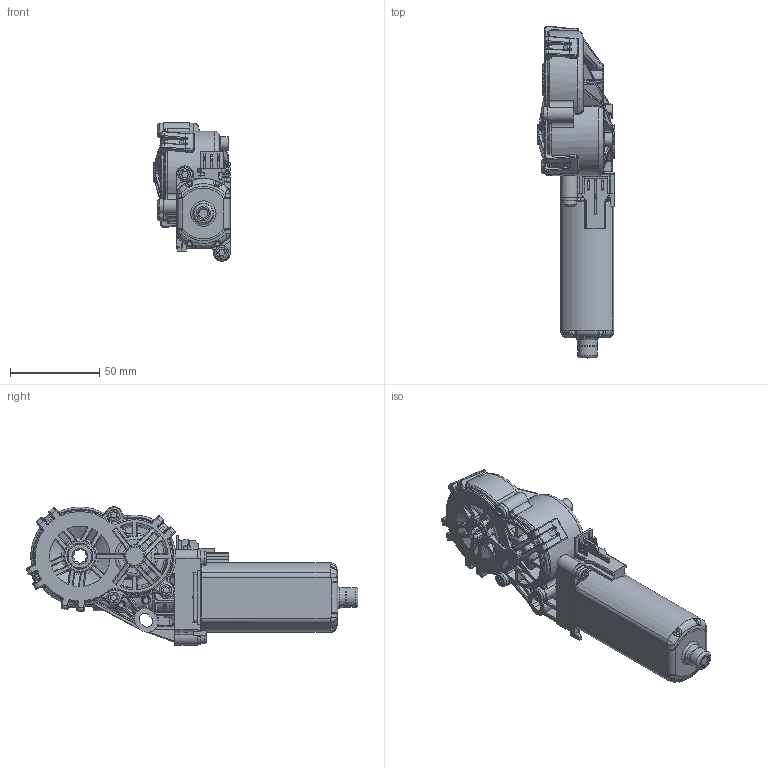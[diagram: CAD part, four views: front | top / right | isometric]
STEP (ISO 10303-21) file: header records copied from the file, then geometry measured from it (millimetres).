
FILE_DESCRIPTION(/* description */ (''),/* implementation_level */ '2;1');
FILE_NAME(/* name */ '0390203310.stp',/* time_stamp */ '2013-02-11T15:06:42+06:00',/* author */ (''),/* organization */ (''),/* preprocessor_version */ 'ST-DEVELOPER v11',/* originating_system */ 'SIEMENS PLM Software NX 7.5',/* authorisation */ '');
FILE_SCHEMA (('AUTOMOTIVE_DESIGN { 1 0 10303 214 1 1 1 1 }'));
Products named in the file (1): eas29D471shc
Bounding box: 43.25 x 185.84 x 77.54 mm (x, y, z)
Volume: 213996.7 mm3; surface area: 43650.7 mm2
Topology: 1 solids, 1 shells, 2158 faces, 5543 edges, 3309 vertices
Faces by surface type: cylinder 811, plane 545, bspline 357, torus 278, sphere 83, cone 68, revolution 16
Full cylindrical faces by diameter (mm): 2.5 x2, 4.5 x1, 7.6 x1, 8 x6, 11 x3, 14 x2, 18 x1
Entity records: 99861 total; most frequent: CARTESIAN_POINT 37131, ORIENTED_EDGE 10848, DIRECTION 8778, EDGE_CURVE 5424, AXIS2_PLACEMENT_3D 3409, VERTEX_POINT 3295, EDGE_LOOP 2222, ADVANCED_FACE 2158
